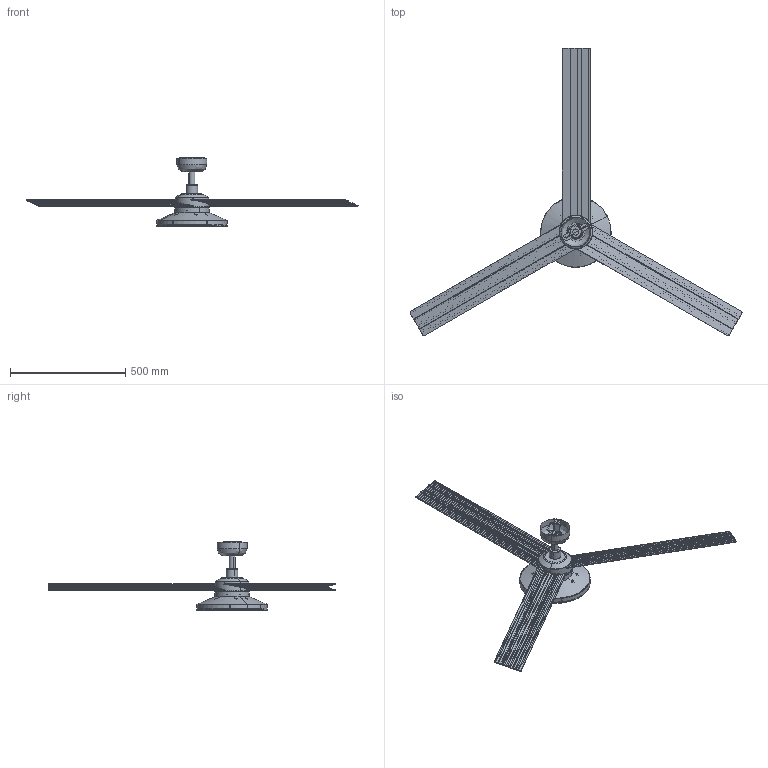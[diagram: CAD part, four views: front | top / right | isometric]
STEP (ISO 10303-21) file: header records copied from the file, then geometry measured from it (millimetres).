
FILE_DESCRIPTION(/* description */ (''),/* implementation_level */ '2;1');
FILE_NAME(/* name */ 'cruiser_tak_XL_floron_3d',/* time_stamp */ '2026-06-18T12:31:28+02:00',/* author */ (''),/* organization */ (''),/* preprocessor_version */ 'ST-DEVELOPER v19.2',/* originating_system */ 'Rhino 8.30',/* authorisation */ '');
FILE_SCHEMA (('CONFIG_CONTROL_DESIGN'));
Length unit declared in the file: millimetre
Products named in the file (1): Document
Bounding box: 1442.38 x 1251.04 x 296.88 mm (x, y, z)
Volume: 250902.6 mm3; surface area: 1304935.7 mm2
Topology: 3 solids, 10 shells, 876 faces, 2472 edges, 1613 vertices
Faces by surface type: plane 528, cylinder 285, bspline 63
Entity records: 33504 total; most frequent: CARTESIAN_POINT 14843, ORIENTED_EDGE 4880, EDGE_CURVE 2472, DIRECTION 1883, B_SPLINE_CURVE_WITH_KNOTS 1749, VERTEX_POINT 1612, AXIS2_PLACEMENT_3D 1347, EDGE_LOOP 930
